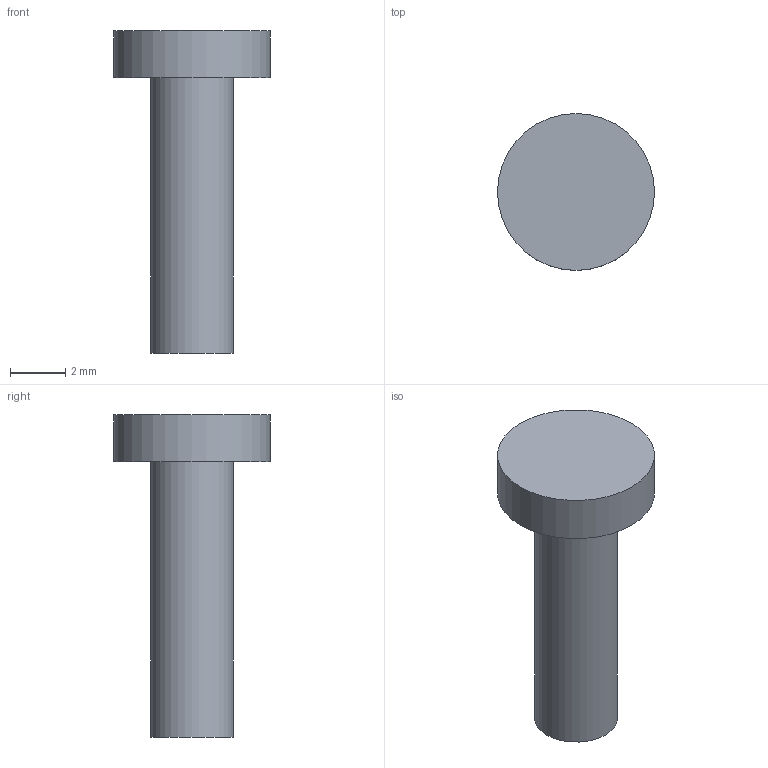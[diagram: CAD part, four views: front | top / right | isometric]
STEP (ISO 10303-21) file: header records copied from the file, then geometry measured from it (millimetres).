
FILE_DESCRIPTION(('Open CASCADE Model'),'2;1');
FILE_NAME('Open CASCADE Shape Model','2026-10-06T03:35:42',('Author'),( 'Open CASCADE'),'Open CASCADE STEP processor 7.8','Open CASCADE 7.8' ,'Unknown');
FILE_SCHEMA(('AUTOMOTIVE_DESIGN { 1 0 10303 214 1 1 1 1 }'));
Length unit declared in the file: millimetre
Products named in the file (1): Open CASCADE STEP translator 7.8 5
Bounding box: 5.7 x 5.7 x 11.7 mm (x, y, z)
Volume: 114.1 mm3; surface area: 175.7 mm2
Topology: 1 solids, 1 shells, 5 faces, 6 edges, 4 vertices
Faces by surface type: plane 3, cylinder 2
Full cylindrical faces by diameter (mm): 3 x1, 5.7 x1
Entity records: 192 total; most frequent: DIRECTION 34, CARTESIAN_POINT 28, ORIENTED_EDGE 12, PCURVE 12, DEFINITIONAL_REPRESENTATION 12, AXIS2_PLACEMENT_3D 10, LINE 10, VECTOR 10
